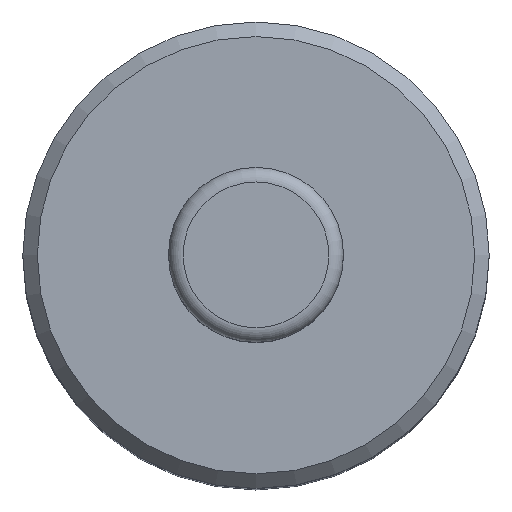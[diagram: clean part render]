
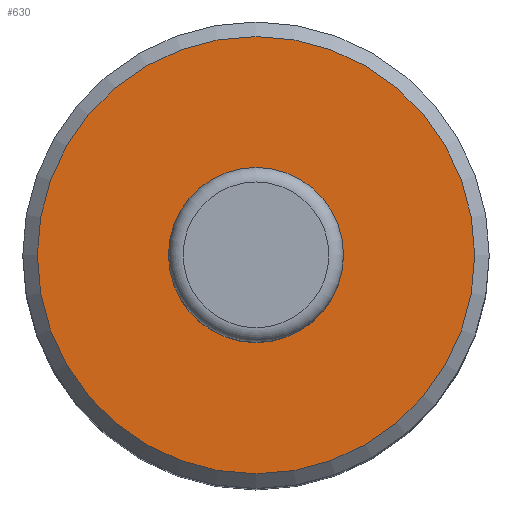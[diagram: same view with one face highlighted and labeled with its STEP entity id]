
A CAD part, top view. The second image highlights one B-rep face of the part: STEP entity #630.
In plain terms, the highlighted planar face has unit normal (0, 0, 1).
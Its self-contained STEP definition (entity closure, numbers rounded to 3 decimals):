
#610 = VERTEX_POINT('',#611);
#611 = CARTESIAN_POINT('',(15.,0.,61.7));
#619 = EDGE_CURVE('',#610,#610,#620,.T.);
#620 = CIRCLE('',#621,15.);
#621 = AXIS2_PLACEMENT_3D('',#622,#623,#624);
#622 = CARTESIAN_POINT('',(0.,0.,61.7));
#623 = DIRECTION('',(0.,0.,1.));
#624 = DIRECTION('',(1.,0.,0.));
#630 = ADVANCED_FACE('',(#631),#634,.T.);
#631 = FACE_BOUND('',#632,.T.);
#632 = EDGE_LOOP('',(#633));
#633 = ORIENTED_EDGE('',*,*,#619,.T.);
#634 = PLANE('',#635);
#635 = AXIS2_PLACEMENT_3D('',#636,#637,#638);
#636 = CARTESIAN_POINT('',(0.,0.,61.7));
#637 = DIRECTION('',(0.,0.,1.));
#638 = DIRECTION('',(1.,0.,0.));
